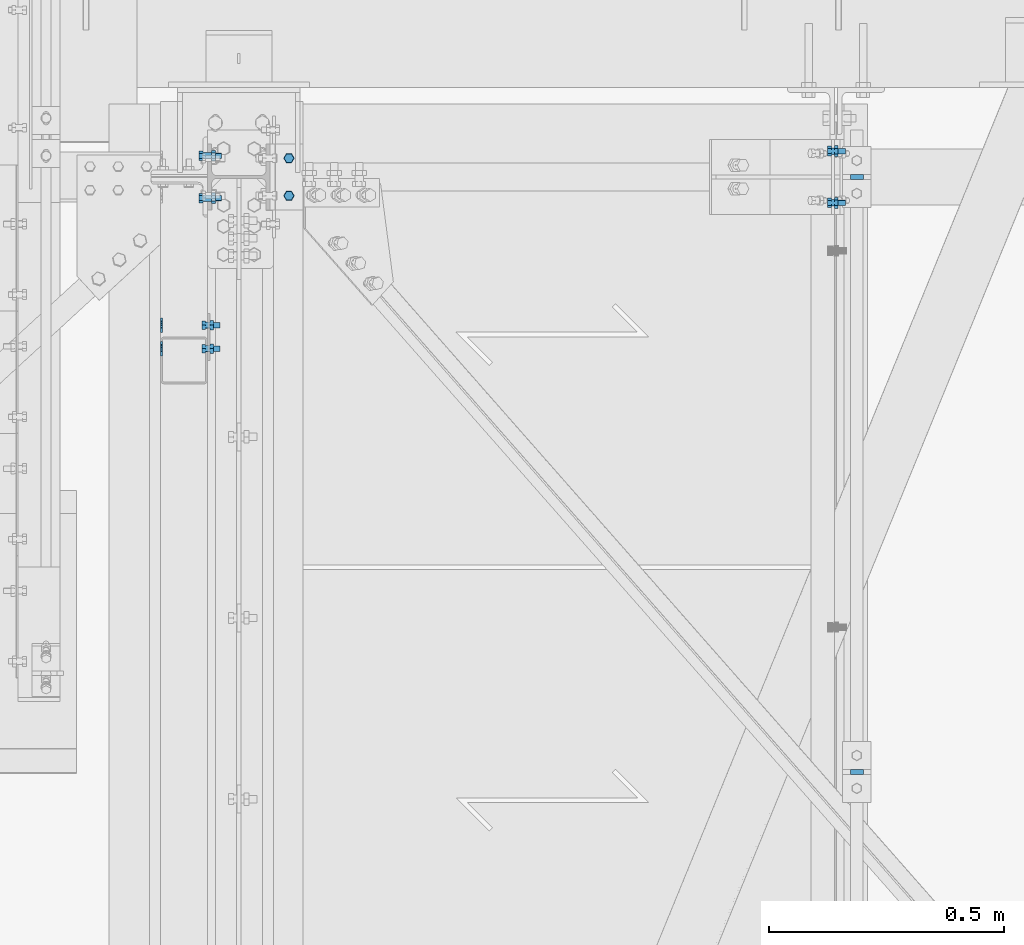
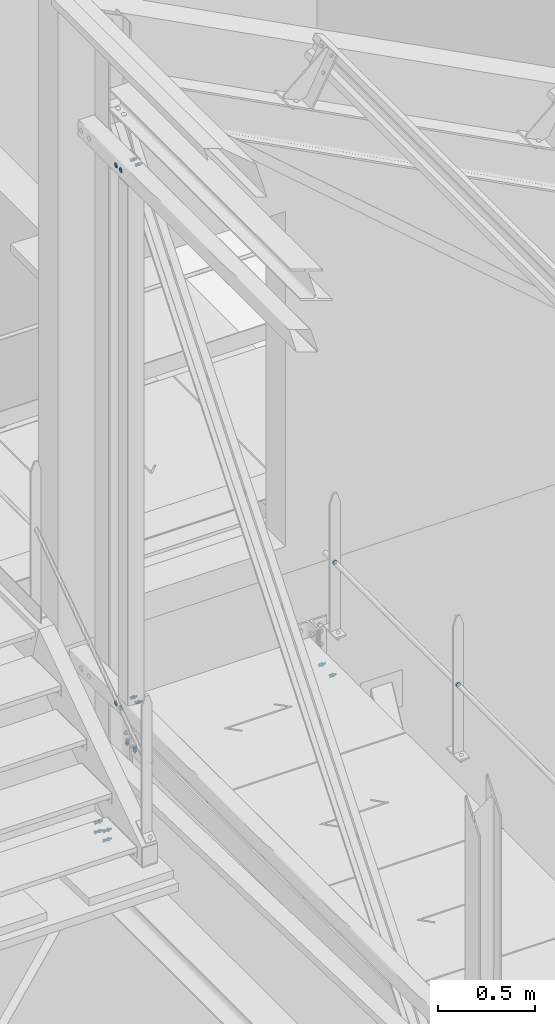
# One storey, part 255 of 362: 14 mechanical fasteners.
"""IFC2X3 building model written with IfcOpenShell, lengths in millimetres."""

import ifcopenshell
import ifcopenshell.guid

model = None  # the IFC model being written
_history = None  # IfcOwnerHistory: only IFC2X3 demands one
_inside = {}  # id of a spatial element -> (the spatial element, [elements in it])
_under = {}  # id of a project, library or spatial element -> (it, [spatial elements below it])
_declared = {}  # id of a project -> (the project, [libraries it declares])
_typed = {}  # id of a type object -> (the type object, [elements of that type])
_made_of = {}  # id of a material, layer set ... -> (it, [elements and type objects made of it])


def new_model(schema):
    """Start an empty IFC model of exactly this schema.

    Asked for "IFC4X3", IfcOpenShell would pick the latest addendum, in which some entities
    have other attributes; the version numbers below select the first issue.
    IFC2X3 requires an IfcOwnerHistory on every rooted entity: one is made here for all.
    """
    global model, _history
    if schema == "IFC4X3":
        model = ifcopenshell.file(schema_version=(4, 3, 0, 0))
    else:
        model = ifcopenshell.file(schema=schema)
    _inside.clear()
    _under.clear()
    _declared.clear()
    _typed.clear()
    _made_of.clear()
    _history = None
    if model.schema == "IFC2X3":
        org = make("IfcOrganization", Name="unknown")
        user = make(
            "IfcPersonAndOrganization",
            ThePerson=make("IfcPerson", FamilyName="unknown"),
            TheOrganization=org,
        )
        app = make(
            "IfcApplication",
            ApplicationDeveloper=org,
            Version="unknown",
            ApplicationFullName="unknown",
            ApplicationIdentifier="unknown",
        )
        _history = make(
            "IfcOwnerHistory",
            OwningUser=user,
            OwningApplication=app,
            ChangeAction="ADDED",
            CreationDate=0,
        )
    return model


def make(cls, **values):
    """One entity of the class cls with the attributes given. An attribute that is None is left unset."""
    return model.create_entity(
        cls, **{name: value for name, value in values.items() if value is not None}
    )


def rooted(cls, **values):
    """An entity with a GlobalId (a new one), such as an element, a storey or a relation."""
    return make(cls, GlobalId=ifcopenshell.guid.new(), OwnerHistory=_history, **values)


def si_unit(unit_type, name, prefix=None):
    """IfcSIUnit, for example si_unit("LENGTHUNIT", "METRE", prefix="MILLI")."""
    return make("IfcSIUnit", UnitType=unit_type, Prefix=prefix, Name=name)


def assignment(units):
    """IfcUnitAssignment: the units of a project."""
    return None if units is None else make("IfcUnitAssignment", Units=units)


def point(xyz):
    """IfcCartesianPoint."""
    return None if xyz is None else make("IfcCartesianPoint", Coordinates=xyz)


def direction(xyz):
    """IfcDirection."""
    return None if xyz is None else make("IfcDirection", DirectionRatios=xyz)


def frame(location, z_axis=None, x_axis=None):
    """IfcAxis2Placement3D, a coordinate frame: its origin and axes. An axis left out is left unset."""
    return make(
        "IfcAxis2Placement3D",
        Location=point(location),
        Axis=direction(z_axis),
        RefDirection=direction(x_axis),
    )


def frame_2d(location, x_axis=None):
    """IfcAxis2Placement2D, a coordinate frame in the plane: its origin and x axis."""
    return make(
        "IfcAxis2Placement2D", Location=point(location), RefDirection=direction(x_axis)
    )


def origin_with_axes():
    """The frame at (0, 0, 0) with the z axis (0, 0, 1) and the x axis (1, 0, 0) written out."""
    return frame((0.0, 0.0, 0.0), z_axis=(0.0, 0.0, 1.0), x_axis=(1.0, 0.0, 0.0))


def origin_2d_with_axis():
    """The frame at (0, 0) in the plane with the x axis (1, 0) written out."""
    return frame_2d((0.0, 0.0), x_axis=(1.0, 0.0))


def place(relative_to, where):
    """IfcLocalPlacement: puts the frame where relative to a parent placement (None: the world)."""
    return make(
        "IfcLocalPlacement", PlacementRelTo=relative_to, RelativePlacement=where
    )


def context(
    kind, dimensions, precision=None, world=None, true_north=None, identifier=None
):
    """IfcGeometricRepresentationContext, for example the 3D "Model" context."""
    return make(
        "IfcGeometricRepresentationContext",
        ContextIdentifier=identifier,
        ContextType=kind,
        CoordinateSpaceDimension=dimensions,
        Precision=precision,
        WorldCoordinateSystem=world,
        TrueNorth=true_north,
    )


def subcontext(parent, identifier, kind, view, scale=None):
    """IfcGeometricRepresentationSubContext, for example "Body" below "Model"."""
    return make(
        "IfcGeometricRepresentationSubContext",
        ContextIdentifier=identifier,
        ContextType=kind,
        ParentContext=parent,
        TargetScale=scale,
        TargetView=view,
    )


def project(units=None, contexts=None):
    """IfcProject with its units and contexts."""
    return rooted(
        "IfcProject",
        Name="project",
        RepresentationContexts=contexts,
        UnitsInContext=assignment(units),
    )


def spatial(cls, under=None, at=None, **own):
    """A site, building, storey or space (cls), placed at a placement, below another one or the project."""
    s = rooted(cls, ObjectPlacement=at, **own)
    if under is not None:
        _under.setdefault(under.id(), (under, []))[1].append(s)
    return s


def polyline(points):
    """IfcPolyline through the points."""
    return make("IfcPolyline", Points=[point(p) for p in points])


def profile(cls, at=None, kind="AREA", **sizes):
    """A parametric profile (cls). Its sizes go by their IFC names, for example OverallWidth=200.0."""
    return make(cls, ProfileType=kind, Position=at, **sizes)


def circle(**sizes):
    """IfcCircleProfileDef."""
    return profile("IfcCircleProfileDef", **sizes)


def outline(outer, holes=None, kind="AREA"):
    """IfcArbitraryClosedProfileDef: a profile drawn as a closed curve; with holes, ...WithVoids."""
    if holes is None:
        return make("IfcArbitraryClosedProfileDef", ProfileType=kind, OuterCurve=outer)
    return make(
        "IfcArbitraryProfileDefWithVoids",
        ProfileType=kind,
        OuterCurve=outer,
        InnerCurves=holes,
    )


def extrude(swept, where, along, depth):
    """IfcExtrudedAreaSolid: the profile swept, set in the frame where, extruded along a direction by depth."""
    return make(
        "IfcExtrudedAreaSolid",
        SweptArea=swept,
        Position=where,
        ExtrudedDirection=direction(along),
        Depth=depth,
    )


def shape(context_of_items, identifier, shape_type, items):
    """IfcShapeRepresentation: the items that make up one representation, for example the "Body"."""
    return make(
        "IfcShapeRepresentation",
        ContextOfItems=context_of_items,
        RepresentationIdentifier=identifier,
        RepresentationType=shape_type,
        Items=items,
    )


def source(mapping_origin, context_of_items, identifier, shape_type, items):
    """IfcRepresentationMap: a shape defined once, which mapped items show again and again."""
    return make(
        "IfcRepresentationMap",
        MappingOrigin=mapping_origin,
        MappedRepresentation=shape(context_of_items, identifier, shape_type, items),
    )


def transform(
    local_origin,
    x_axis=None,
    y_axis=None,
    z_axis=None,
    scale=None,
    scale2=None,
    scale3=None,
    uniform=True,
):
    """IfcCartesianTransformationOperator3D, or its non-uniform kind. x_axis, y_axis, z_axis: its Axis1, 2, 3."""
    if uniform:
        return make(
            "IfcCartesianTransformationOperator3D",
            Axis1=direction(x_axis),
            Axis2=direction(y_axis),
            LocalOrigin=point(local_origin),
            Scale=scale,
            Axis3=direction(z_axis),
        )
    return make(
        "IfcCartesianTransformationOperator3DnonUniform",
        Axis1=direction(x_axis),
        Axis2=direction(y_axis),
        LocalOrigin=point(local_origin),
        Scale=scale,
        Axis3=direction(z_axis),
        Scale2=scale2,
        Scale3=scale3,
    )


def mapped(mapping_source, mapping_target):
    """IfcMappedItem: shows the shape of a source again, moved by a transform."""
    return make(
        "IfcMappedItem", MappingSource=mapping_source, MappingTarget=mapping_target
    )


def material(Name=None, Category=None):
    """IfcMaterial."""
    return make("IfcMaterial", Name=Name, Category=Category)


def made_of(thing, what):
    """Note that an element or type object is made of a material, layer set ...; save() writes the relation."""
    if what is not None:
        _made_of.setdefault(what.id(), (what, []))[1].append(thing)
    return thing


def type_object(cls, material=None, **own):
    """A type object (cls), such as IfcWallType, which elements share."""
    return made_of(rooted(cls, **own), material)


def element(
    cls,
    number,
    at=None,
    inside=None,
    cuts=None,
    type_object=None,
    material=None,
    context=None,
    identifier="Body",
    shape_type=None,
    held_by="IfcProductDefinitionShape",
    body=None,
    shapes=None,
    **own,
):
    """One element of the class cls, such as IfcWall. Its Tag is "e" and its number.

    at: its placement. inside: the storey or other place that contains it. cuts: it is an
    opening in that element (IfcRelVoidsElement). A single representation is given by context,
    identifier, shape_type and body (its items); several are given by shapes. held_by: the class
    of the entity that holds the representations. save() writes the other relations.
    """
    e = rooted(cls, Tag="e%d" % number, ObjectPlacement=at, **own)
    if body is not None:
        shapes = [shape(context, identifier, shape_type, body)]
    if shapes is not None:
        e.Representation = make(held_by, Representations=shapes)
    if inside is not None:
        _inside.setdefault(inside.id(), (inside, []))[1].append(e)
    if cuts is not None:
        rooted(
            "IfcRelVoidsElement", RelatingBuildingElement=cuts, RelatedOpeningElement=e
        )
    if type_object is not None:
        _typed.setdefault(type_object.id(), (type_object, []))[1].append(e)
    return made_of(e, material)


def aggregate(whole, parts):
    """IfcRelAggregates: a whole, such as a stair, and the parts it consists of."""
    return rooted("IfcRelAggregates", RelatingObject=whole, RelatedObjects=parts)


def save(model, path):
    """Write the relations noted so far, then the file.

    IfcRelAggregates (storeys below a building ...), IfcRelContainedInSpatialStructure (elements
    in a storey), IfcRelDefinesByType, IfcRelAssociatesMaterial and IfcRelDeclares: one each for
    every whole, place, type object, material and project.
    """
    for whole, parts in _under.values():
        aggregate(whole, parts)
    for where, things in _inside.values():
        rooted(
            "IfcRelContainedInSpatialStructure",
            RelatedElements=things,
            RelatingStructure=where,
        )
    for kind, things in _typed.values():
        rooted("IfcRelDefinesByType", RelatedObjects=things, RelatingType=kind)
    for what, things in _made_of.values():
        rooted("IfcRelAssociatesMaterial", RelatedObjects=things, RelatingMaterial=what)
    for by, libraries in _declared.values():
        rooted("IfcRelDeclares", RelatingContext=by, RelatedDefinitions=libraries)
    model.write(path)


model = new_model("IFC2X3")

# Units and contexts
model_context = context("Model", 3, precision=1e-05, world=origin_with_axes())
body_context = subcontext(model_context, "Body", "Model", "MODEL_VIEW")
ifc_project = project(units=[si_unit("LENGTHUNIT", "METRE", prefix="MILLI"), si_unit("AREAUNIT", "SQUARE_METRE"), si_unit("VOLUMEUNIT", "CUBIC_METRE"), si_unit("MASSUNIT", "GRAM", prefix="KILO"), si_unit("TIMEUNIT", "SECOND"), si_unit("PLANEANGLEUNIT", "RADIAN"), si_unit("SOLIDANGLEUNIT", "STERADIAN"), si_unit("THERMODYNAMICTEMPERATUREUNIT", "DEGREE_CELSIUS"), si_unit("LUMINOUSINTENSITYUNIT", "LUMEN")], contexts=[model_context])

# Site, building, storey
site_placement = place(None, origin_with_axes())
site = spatial("IfcSite", under=ifc_project, at=site_placement, Name="Undefined", CompositionType="ELEMENT")
building_placement = place(site_placement, origin_with_axes())
building = spatial("IfcBuilding", under=site, at=building_placement, Name="Undefined", CompositionType="ELEMENT")
storey_placement = place(building_placement, origin_with_axes())
storey = spatial("IfcBuildingStorey", under=building, at=storey_placement, Name="Undefined", CompositionType="ELEMENT", Elevation=0.0)

# Mechanical fasteners
ifc_material_1 = material(Name="6.8")
mechanical_fastener_type = type_object("IfcMechanicalFastenerType", Name="Bolt assembly")
shared_shape_1 = source(origin_with_axes(), body_context, "Body", "SweptSolid", [
    extrude(circle(Radius=15.0, at=origin_2d_with_axis()), frame((0.0, 0.0, 0.0), z_axis=(0.0, 1.0, 0.0), x_axis=(1.0, 0.0, 0.0)), (0.0, 0.0, 1.0), 4.1),
])
for number, where, z_axis, x_axis, name in (
    (1, (12513.5000000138, 14859.9999987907, 11870.0), (0.0, -1.0, 0.0), (0.0, 0.0, -1.0), "Bolt assembly"),
    (2, (12513.5000000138, 14859.9999987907, 8500.0), (0.0, 1.0, 0.0), (0.0, 0.0, 1.0), "Bolt assembly"),
):
    element("IfcMechanicalFastener", number, at=place(storey_placement, frame(where, z_axis=z_axis, x_axis=x_axis)), inside=storey, type_object=mechanical_fastener_type, material=ifc_material_1, Name=name, NominalDiameter=30.0, NominalLength=4.0, context=body_context, shape_type="MappedRepresentation", body=[
        mapped(shared_shape_1, transform((0.0, 0.0, -25.0))),
        mapped(shared_shape_1, transform((0.0, 0.0, 25.0))),
    ])
ifc_material_2 = material(Name="8.8-SB-ZINGUE")
shared_shape_2 = source(origin_with_axes(), body_context, "Body", "SweptSolid", [
    extrude(circle(Radius=7.0, at=origin_2d_with_axis()), frame((0.0, -3.89999843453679, 0.0), z_axis=(0.0, 1.0, 0.0), x_axis=(1.0, 0.0, 0.0)), (0.0, 0.0, 1.0), 4.0),
    extrude(circle(Radius=7.0, at=origin_2d_with_axis()), frame((0.0, -0.100011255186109, 0.0), z_axis=(0.0, 1.0, 0.0), x_axis=(1.0, 0.0, 0.0)), (0.0, 0.0, 1.0), 5.1),
    extrude(outline(polyline([(10.39230484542, 0.0), (5.19615242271, 9.00000000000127), (-5.19615242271, 9.00000000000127), (-10.39230484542, 0.0), (-5.19615242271, -9.00000000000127), (5.19615242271, -9.00000000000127), (10.39230484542, 0.0)])), frame((0.0, -11.9199984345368, 0.0), z_axis=(0.0, 1.0, 0.0), x_axis=(1.0, 0.0, 0.0)), (0.0, 0.0, 1.0), 7.92),
    extrude(circle(Radius=6.0, at=origin_2d_with_axis()), frame((0.0, -3.99999923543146, 0.0), z_axis=(0.0, 1.0, 0.0), x_axis=(1.0, 0.0, 0.0)), (0.0, 0.0, 1.0), 30.0),
    extrude(outline(polyline([(11.5008173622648, 0.0), (5.7504086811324, 9.96000000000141), (-5.7504086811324, 9.96000000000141), (-11.5008173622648, 0.0), (-5.7504086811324, -9.96000000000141), (5.7504086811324, -9.96000000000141), (11.5008173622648, 0.0)])), frame((0.0, 5.0, 0.0), z_axis=(0.0, 1.0, 0.0), x_axis=(1.0, 0.0, 0.0)), (0.0, 0.0, 1.0), 7.92),
])
for number, where, z_axis, x_axis, name in (
    (3, (12613.5000000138, 14859.9999987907, 11870.0), (0.0, -1.0, 0.0), (0.0, 0.0, -1.0), "Bolt assembly"),
    (4, (12613.5000000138, 14859.9999987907, 8500.0), (0.0, 1.0, 0.0), (0.0, 0.0, 1.0), "Bolt assembly"),
):
    element("IfcMechanicalFastener", number, at=place(storey_placement, frame(where, z_axis=z_axis, x_axis=x_axis)), inside=storey, type_object=mechanical_fastener_type, material=ifc_material_2, Name=name, NominalDiameter=12.0, NominalLength=30.0, context=body_context, shape_type="MappedRepresentation", body=[
        mapped(shared_shape_2, transform((0.0, 0.0, -25.0))),
        mapped(shared_shape_2, transform((0.0, 0.0, 25.0))),
    ])
shared_shape_3 = source(origin_with_axes(), body_context, "Body", "SweptSolid", [
    extrude(circle(Radius=14.0, at=origin_2d_with_axis()), frame((0.0, -5.00000000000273, 0.0), z_axis=(0.0, 1.0, 0.0), x_axis=(1.0, 0.0, 0.0)), (0.0, 0.0, 1.0), 10.1),
])
for number, where, z_axis, x_axis, name in (
    (5, (13993.9998937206, 15200.000000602, 8673.79999656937), (0.0, 0.0, 1.0), (-1.0, 0.0, 0.0), "Bolt assembly"),
    (6, (13993.9998927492, 13935.0034477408, 8673.79999753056), (0.0, 0.0, 1.0), (-1.0, 0.0, 0.0), "Bolt assembly"),
):
    element("IfcMechanicalFastener", number, at=place(storey_placement, frame(where, z_axis=z_axis, x_axis=x_axis)), inside=storey, type_object=mechanical_fastener_type, material=ifc_material_1, Name=name, NominalDiameter=27.0, NominalLength=10.0, context=body_context, shape_type="MappedRepresentation", body=[
        mapped(shared_shape_3, transform((0.0, 0.0, 0.0))),
    ])
shared_shape_4 = source(origin_with_axes(), body_context, "Body", "SweptSolid", [
    extrude(circle(Radius=7.0, at=origin_2d_with_axis()), frame((0.0, -4.90000000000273, 0.0), z_axis=(0.0, 1.0, 0.0), x_axis=(1.0, 0.0, 0.0)), (0.0, 0.0, 1.0), 5.0),
    extrude(circle(Radius=7.0, at=origin_2d_with_axis()), frame((0.0, -0.100011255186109, 0.0), z_axis=(0.0, 1.0, 0.0), x_axis=(1.0, 0.0, 0.0)), (0.0, 0.0, 1.0), 7.1),
    extrude(outline(polyline([(10.39230484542, 0.0), (5.19615242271, 9.00000000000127), (-5.19615242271, 9.00000000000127), (-10.39230484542, 0.0), (-5.19615242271, -9.00000000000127), (5.19615242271, -9.00000000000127), (10.39230484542, 0.0)])), frame((0.0, -12.9200004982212, 0.0), z_axis=(0.0, 1.0, 0.0), x_axis=(1.0, 0.0, 0.0)), (0.0, 0.0, 1.0), 7.92),
    extrude(circle(Radius=6.0, at=origin_2d_with_axis()), frame((0.0, -5.00000000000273, 0.0), z_axis=(0.0, 1.0, 0.0), x_axis=(1.0, 0.0, 0.0)), (0.0, 0.0, 1.0), 30.0),
    extrude(outline(polyline([(11.5008173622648, 0.0), (5.7504086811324, 9.96000000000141), (-5.7504086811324, 9.96000000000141), (-11.5008173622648, 0.0), (-5.7504086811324, -9.96000000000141), (5.7504086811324, -9.96000000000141), (11.5008173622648, 0.0)])), frame((0.0, 7.0, 0.0), z_axis=(0.0, 1.0, 0.0), x_axis=(1.0, 0.0, 0.0)), (0.0, 0.0, 1.0), 7.92),
])
for number, where, z_axis, x_axis, name in (
    (7, (12786.5082291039, 15240.0000000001, 7949.99999999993), (0.0, -1.0, 0.0), (-1.0, 0.0, 0.0), "Bolt assembly"),
    (8, (12786.5082291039, 15160.0, 7949.99999999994), (0.0, -1.0, 0.0), (-1.0, 0.0, 0.0), "Bolt assembly"),
):
    element("IfcMechanicalFastener", number, at=place(storey_placement, frame(where, z_axis=z_axis, x_axis=x_axis)), inside=storey, type_object=mechanical_fastener_type, material=ifc_material_2, Name=name, NominalDiameter=12.0, NominalLength=30.0, context=body_context, shape_type="MappedRepresentation", body=[
        mapped(shared_shape_4, transform((0.0, 0.0, 0.0))),
    ])
shared_shape_5 = source(origin_with_axes(), body_context, "Body", "SweptSolid", [
    extrude(circle(Radius=7.0, at=origin_2d_with_axis()), frame((0.0, -6.5, 0.0), z_axis=(0.0, 1.0, 0.0), x_axis=(1.0, 0.0, 0.0)), (0.0, 0.0, 1.0), 6.1),
    extrude(outline(polyline([(10.39230484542, 0.0), (5.19615242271, 9.00000000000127), (-5.19615242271, 9.00000000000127), (-10.39230484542, 0.0), (-5.19615242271, -9.00000000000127), (5.19615242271, -9.00000000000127), (10.39230484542, 0.0)])), frame((0.0, -14.42, 0.0), z_axis=(0.0, 1.0, 0.0), x_axis=(1.0, 0.0, 0.0)), (0.0, 0.0, 1.0), 7.92),
    extrude(circle(Radius=6.0, at=origin_2d_with_axis()), frame((0.0, -6.5, 0.0), z_axis=(0.0, 1.0, 0.0), x_axis=(1.0, 0.0, 0.0)), (0.0, 0.0, 1.0), 30.0),
    extrude(outline(polyline([(11.5008173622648, 0.0), (5.7504086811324, 9.96000000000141), (-5.7504086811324, 9.96000000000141), (-11.5008173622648, 0.0), (-5.7504086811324, -9.96000000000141), (5.7504086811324, -9.96000000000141), (11.5008173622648, 0.0)])), frame((0.0, -0.5, 0.0), z_axis=(0.0, 1.0, 0.0), x_axis=(1.0, 0.0, 0.0)), (0.0, 0.0, 1.0), 7.92),
])
for number, where, z_axis, x_axis, name in (
    (9, (13946.4998855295, 15254.9999906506, 8014.99999999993), (0.0, 0.0, 1.0), (0.0, -1.0, 0.0), "Bolt assembly"),
    (10, (13946.4998855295, 15144.9999999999, 8014.99999999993), (0.0, 0.0, -1.0), (0.0, 1.0, 0.0), "Bolt assembly"),
):
    element("IfcMechanicalFastener", number, at=place(storey_placement, frame(where, z_axis=z_axis, x_axis=x_axis)), inside=storey, type_object=mechanical_fastener_type, material=ifc_material_2, Name=name, NominalDiameter=12.0, NominalLength=30.0, context=body_context, shape_type="MappedRepresentation", body=[
        mapped(shared_shape_5, transform((0.0, 0.0, 0.0))),
    ])
shared_shape_6 = source(origin_with_axes(), body_context, "Body", "SweptSolid", [
    extrude(circle(Radius=7.0, at=origin_2d_with_axis()), frame((0.0, -0.100011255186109, 0.0), z_axis=(0.0, 1.0, 0.0), x_axis=(1.0, 0.0, 0.0)), (0.0, 0.0, 1.0), 8.6),
    extrude(circle(Radius=7.0, at=origin_2d_with_axis()), frame((0.0, -9.9, 0.0), z_axis=(0.0, 1.0, 0.0), x_axis=(1.0, 0.0, 0.0)), (0.0, 0.0, 1.0), 10.0),
    extrude(outline(polyline([(10.39230484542, 0.0), (5.19615242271, 9.00000000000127), (-5.19615242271, 9.00000000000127), (-10.39230484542, 0.0), (-5.19615242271, -9.00000000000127), (5.19615242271, -9.00000000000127), (10.39230484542, 0.0)])), frame((0.0, -17.92, 0.0), z_axis=(0.0, 1.0, 0.0), x_axis=(1.0, 0.0, 0.0)), (0.0, 0.0, 1.0), 7.92),
    extrude(circle(Radius=6.0, at=origin_2d_with_axis()), frame((0.0, -10.0000010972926, 0.0), z_axis=(0.0, 1.0, 0.0), x_axis=(1.0, 0.0, 0.0)), (0.0, 0.0, 1.0), 40.0),
    extrude(outline(polyline([(11.5008173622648, 0.0), (5.7504086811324, 9.96000000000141), (-5.7504086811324, 9.96000000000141), (-11.5008173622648, 0.0), (-5.7504086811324, -9.96000000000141), (5.7504086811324, -9.96000000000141), (11.5008173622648, 0.0)])), frame((0.0, 8.49999994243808, 0.0), z_axis=(0.0, 1.0, 0.0), x_axis=(1.0, 0.0, 0.0)), (0.0, 0.0, 1.0), 7.92),
])
for number, where, z_axis, x_axis, name in (
    (11, (12613.5000013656, 15244.9999457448, 7500.86843750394), (0.0, 0.0, -1.0), (0.0, 1.0, 0.0), "Bolt assembly"),
    (12, (12613.5000013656, 15244.9999457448, 7440.83881564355), (0.0, 0.0, -1.0), (0.0, 1.0, 0.0), "Bolt assembly"),
    (13, (12613.5000013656, 15154.9999457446, 7443.66722095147), (0.0, 0.0, 1.0), (0.0, -1.0, 0.0), "Bolt assembly"),
    (14, (12613.5000013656, 15154.9999457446, 7503.69684281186), (0.0, 0.0, 1.0), (0.0, -1.0, 0.0), "Bolt assembly"),
):
    element("IfcMechanicalFastener", number, at=place(storey_placement, frame(where, z_axis=z_axis, x_axis=x_axis)), inside=storey, type_object=mechanical_fastener_type, material=ifc_material_2, Name=name, NominalDiameter=12.0, NominalLength=40.0, context=body_context, shape_type="MappedRepresentation", body=[
        mapped(shared_shape_6, transform((0.0, 0.0, 0.0))),
    ])

save(model, "model.ifc")
